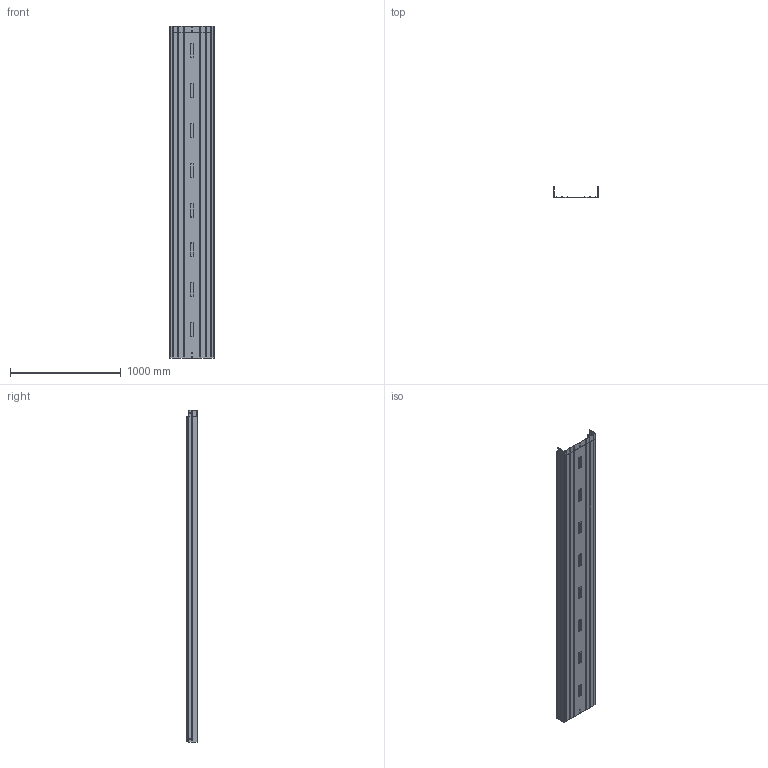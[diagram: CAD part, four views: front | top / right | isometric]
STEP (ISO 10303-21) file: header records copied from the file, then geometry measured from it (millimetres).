
FILE_DESCRIPTION (( 'STEP AP203' ), '1' );
FILE_NAME ('ERE-C 400x100 400x100.step', '2023-07-27T16:05:57', ( '' ), ( '' ), 'SwSTEP 2.0', 'SolidWorks 2022', '' );
FILE_SCHEMA (( 'CONFIG_CONTROL_DESIGN' ));
Length unit declared in the file: millimetre
Products named in the file (1): ERE-C 400x100 400x100
Bounding box: 400 x 100.8 x 3000 mm (x, y, z)
Surface area: 3696736.7 mm2 (no closed solid volume)
Topology: 0 solids, 3 shells, 10438 faces, 30574 edges, 20197 vertices
Faces by surface type: plane 9954, cylinder 270, bspline 126, torus 68, cone 16, sphere 4
Entity records: 340286 total; most frequent: CARTESIAN_POINT 63667, ORIENTED_EDGE 60801, DIRECTION 51754, EDGE_CURVE 30551, LINE 29722, VECTOR 29722, VERTEX_POINT 20197, AXIS2_PLACEMENT_3D 11016
